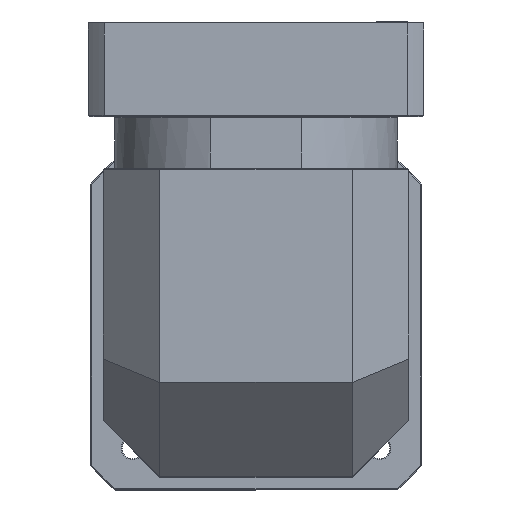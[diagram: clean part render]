
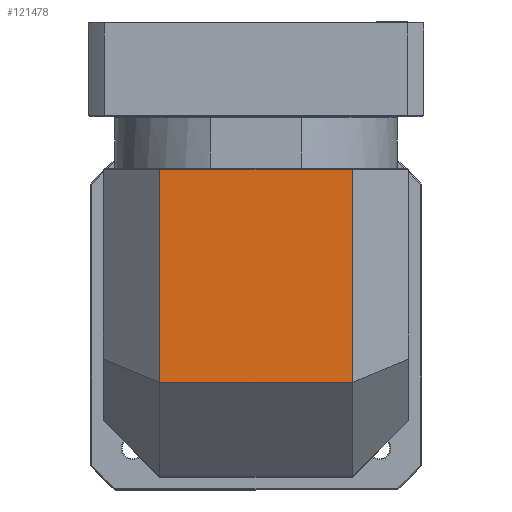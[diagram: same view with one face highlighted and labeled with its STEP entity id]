
A CAD part, top view. The second image highlights one B-rep face of the part: STEP entity #121478.
In plain terms, the highlighted planar face has unit normal (0, 0, 1).
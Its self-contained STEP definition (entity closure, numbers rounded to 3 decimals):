
#360 = DIRECTION ( 'NONE',  ( 0., 1., 0. ) ) ;
#6626 = CARTESIAN_POINT ( 'NONE',  ( -131.721, 92.225, 109.959 ) ) ;
#8250 = ORIENTED_EDGE ( 'NONE', *, *, #120643, .F. ) ;
#11254 = VERTEX_POINT ( 'NONE', #6626 ) ;
#18208 = EDGE_CURVE ( 'NONE', #11254, #129402, #77902, .T. ) ;
#22071 = VECTOR ( 'NONE', #23650, 1000. ) ;
#23629 = LINE ( 'NONE', #53072, #22071 ) ;
#23650 = DIRECTION ( 'NONE',  ( -1., 0., 0. ) ) ;
#25795 = VERTEX_POINT ( 'NONE', #40324 ) ;
#27147 = CARTESIAN_POINT ( 'NONE',  ( -161.721, 92.225, 109.959 ) ) ;
#27301 = LINE ( 'NONE', #47804, #95416 ) ;
#33540 = ORIENTED_EDGE ( 'NONE', *, *, #79446, .T. ) ;
#37100 = PLANE ( 'NONE',  #91947 ) ;
#39148 = LINE ( 'NONE', #42834, #118569 ) ;
#39606 = ORIENTED_EDGE ( 'NONE', *, *, #106278, .T. ) ;
#40324 = CARTESIAN_POINT ( 'NONE',  ( -131.721, 205.225, 109.959 ) ) ;
#42734 = CARTESIAN_POINT ( 'NONE',  ( -29.721, 92.225, 109.959 ) ) ;
#42834 = CARTESIAN_POINT ( 'NONE',  ( -29.721, 205.725, 109.959 ) ) ;
#47804 = CARTESIAN_POINT ( 'NONE',  ( -131.721, 123.975, 109.959 ) ) ;
#48023 = DIRECTION ( 'NONE',  ( 1., 0., 0. ) ) ;
#53072 = CARTESIAN_POINT ( 'NONE',  ( -161.721, 205.225, 109.959 ) ) ;
#54668 = EDGE_LOOP ( 'NONE', ( #33540, #39606, #8250, #85512 ) ) ;
#56563 = DIRECTION ( 'NONE',  ( 1., 0., 0. ) ) ;
#66565 = DIRECTION ( 'NONE',  ( 0., 0., -1. ) ) ;
#77902 = LINE ( 'NONE', #27147, #85957 ) ;
#79446 = EDGE_CURVE ( 'NONE', #129402, #88950, #39148, .T. ) ;
#83559 = CARTESIAN_POINT ( 'NONE',  ( -29.721, 205.225, 109.959 ) ) ;
#85512 = ORIENTED_EDGE ( 'NONE', *, *, #18208, .T. ) ;
#85957 = VECTOR ( 'NONE', #48023, 1000. ) ;
#88558 = DIRECTION ( 'NONE',  ( 0., 1., 0. ) ) ;
#88950 = VERTEX_POINT ( 'NONE', #83559 ) ;
#91947 = AXIS2_PLACEMENT_3D ( 'NONE', #97889, #66565, #56563 ) ;
#95416 = VECTOR ( 'NONE', #88558, 1000. ) ;
#97889 = CARTESIAN_POINT ( 'NONE',  ( -161.721, 205.725, 109.959 ) ) ;
#106278 = EDGE_CURVE ( 'NONE', #88950, #25795, #23629, .T. ) ;
#118569 = VECTOR ( 'NONE', #360, 1000. ) ;
#120643 = EDGE_CURVE ( 'NONE', #11254, #25795, #27301, .T. ) ;
#121478 = ADVANCED_FACE ( 'NONE', ( #132277 ), #37100, .F. ) ;
#129402 = VERTEX_POINT ( 'NONE', #42734 ) ;
#132277 = FACE_OUTER_BOUND ( 'NONE', #54668, .T. ) ;
